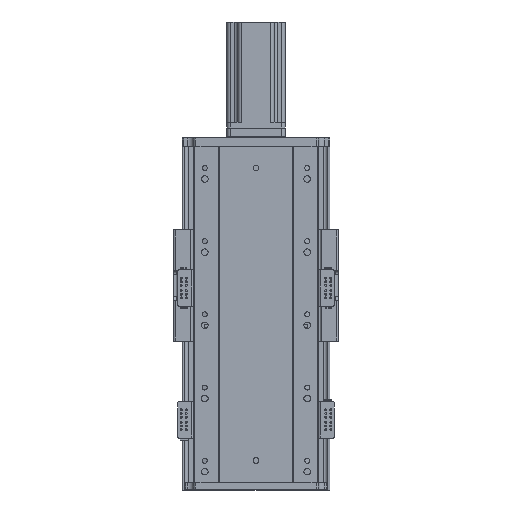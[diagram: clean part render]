
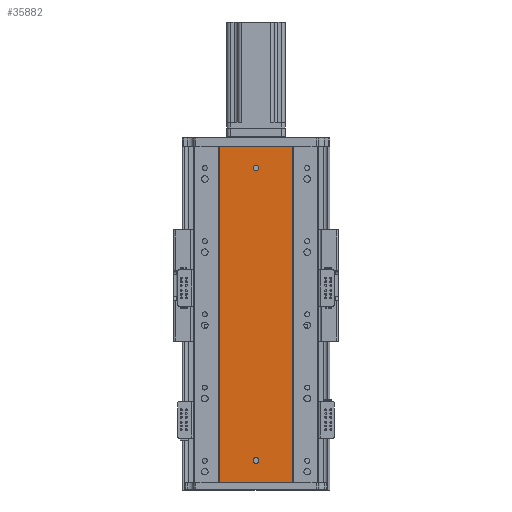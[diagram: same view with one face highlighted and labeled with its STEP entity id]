
A CAD part, front view. The second image highlights one B-rep face of the part: STEP entity #35882.
In plain terms, the highlighted planar face has unit normal (0, -1, 0).
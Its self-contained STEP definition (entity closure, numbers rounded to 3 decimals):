
#3149 = AXIS2_PLACEMENT_3D ( 'NONE', #26617, #26619, #26595 ) ;
#3155 = AXIS2_PLACEMENT_3D ( 'NONE', #9275, #9280, #9288 ) ;
#3373 = B_SPLINE_CURVE_WITH_KNOTS ( 'NONE', 3,
 ( #5493, #5479, #5494, #5488 ),
 .UNSPECIFIED., .F., .F.,
 ( 4, 4 ),
 ( 0., 1. ),
 .UNSPECIFIED. ) ;
#3380 = B_SPLINE_CURVE_WITH_KNOTS ( 'NONE', 3,
 ( #5648, #5653, #5668, #5664 ),
 .UNSPECIFIED., .F., .F.,
 ( 4, 4 ),
 ( 0., 1. ),
 .UNSPECIFIED. ) ;
#5479 = CARTESIAN_POINT ( 'NONE',  ( 185.97, 79.476, 306.667 ) ) ;
#5488 = CARTESIAN_POINT ( 'NONE',  ( 185.97, 79.476, 0. ) ) ;
#5493 = CARTESIAN_POINT ( 'NONE',  ( 185.97, 79.476, 460. ) ) ;
#5494 = CARTESIAN_POINT ( 'NONE',  ( 185.97, 79.476, 153.333 ) ) ;
#5539 = CARTESIAN_POINT ( 'NONE',  ( 0., 79.476, 460. ) ) ;
#5547 = DIRECTION ( 'NONE',  ( 1., 0., 0. ) ) ;
#5563 = DIRECTION ( 'NONE',  ( 0., 0., -1. ) ) ;
#5580 = CARTESIAN_POINT ( 'NONE',  ( 136.47, 79.476, 430. ) ) ;
#5581 = DIRECTION ( 'NONE',  ( 0., -1., 0. ) ) ;
#5605 = CARTESIAN_POINT ( 'NONE',  ( 136.47, 79.476, 30. ) ) ;
#5608 = DIRECTION ( 'NONE',  ( 0., -1., 0. ) ) ;
#5610 = DIRECTION ( 'NONE',  ( 0., 0., -1. ) ) ;
#5648 = CARTESIAN_POINT ( 'NONE',  ( 86.97, 79.476, 460. ) ) ;
#5653 = CARTESIAN_POINT ( 'NONE',  ( 86.97, 79.476, 306.667 ) ) ;
#5664 = CARTESIAN_POINT ( 'NONE',  ( 86.97, 79.476, 0. ) ) ;
#5668 = CARTESIAN_POINT ( 'NONE',  ( 86.97, 79.476, 153.333 ) ) ;
#5693 = DIRECTION ( 'NONE',  ( 1., 0., 0. ) ) ;
#5723 = CARTESIAN_POINT ( 'NONE',  ( 0., 79.476, 0. ) ) ;
#8144 = CARTESIAN_POINT ( 'NONE',  ( 86.97, 79.476, 460. ) ) ;
#8204 = CARTESIAN_POINT ( 'NONE',  ( 185.97, 79.476, 0. ) ) ;
#8216 = CARTESIAN_POINT ( 'NONE',  ( 86.97, 79.476, 0. ) ) ;
#8237 = CARTESIAN_POINT ( 'NONE',  ( 185.97, 79.476, 460. ) ) ;
#8539 = CARTESIAN_POINT ( 'NONE',  ( 136.47, 79.476, 34. ) ) ;
#8577 = CARTESIAN_POINT ( 'NONE',  ( 136.47, 79.476, 426. ) ) ;
#8595 = CARTESIAN_POINT ( 'NONE',  ( 136.47, 79.476, 434. ) ) ;
#8626 = CARTESIAN_POINT ( 'NONE',  ( 136.47, 79.476, 26. ) ) ;
#9275 = CARTESIAN_POINT ( 'NONE',  ( 136.47, 79.476, 430. ) ) ;
#9280 = DIRECTION ( 'NONE',  ( 0., -1., 0. ) ) ;
#9288 = DIRECTION ( 'NONE',  ( 0., 0., -1. ) ) ;
#9687 = VERTEX_POINT ( 'NONE', #8144 ) ;
#9778 = VERTEX_POINT ( 'NONE', #8204 ) ;
#9781 = VERTEX_POINT ( 'NONE', #8216 ) ;
#9793 = VERTEX_POINT ( 'NONE', #8237 ) ;
#10226 = VERTEX_POINT ( 'NONE', #8539 ) ;
#10244 = VERTEX_POINT ( 'NONE', #8595 ) ;
#10289 = VERTEX_POINT ( 'NONE', #8577 ) ;
#10292 = VERTEX_POINT ( 'NONE', #8626 ) ;
#11175 = DIRECTION ( 'NONE',  ( 0., 1., 0. ) ) ;
#11200 = CARTESIAN_POINT ( 'NONE',  ( 0., 79.476, 460. ) ) ;
#11209 = DIRECTION ( 'NONE',  ( 0., 0., 1. ) ) ;
#11222 = PLANE ( 'NONE',  #33517 ) ;
#17085 = EDGE_LOOP ( 'NONE', ( #20745, #20733 ) ) ;
#17119 = EDGE_LOOP ( 'NONE', ( #20748, #20725 ) ) ;
#17129 = EDGE_LOOP ( 'NONE', ( #20700, #20728, #20696, #20835 ) ) ;
#20696 = ORIENTED_EDGE ( 'NONE', *, *, #26080, .F. ) ;
#20700 = ORIENTED_EDGE ( 'NONE', *, *, #26198, .T. ) ;
#20725 = ORIENTED_EDGE ( 'NONE', *, *, #24863, .F. ) ;
#20728 = ORIENTED_EDGE ( 'NONE', *, *, #26070, .F. ) ;
#20733 = ORIENTED_EDGE ( 'NONE', *, *, #24771, .F. ) ;
#20745 = ORIENTED_EDGE ( 'NONE', *, *, #26134, .F. ) ;
#20748 = ORIENTED_EDGE ( 'NONE', *, *, #26151, .F. ) ;
#20835 = ORIENTED_EDGE ( 'NONE', *, *, #26186, .T. ) ;
#24771 = EDGE_CURVE ( 'NONE', #10244, #10289, #30408, .T. ) ;
#24863 = EDGE_CURVE ( 'NONE', #10226, #10292, #30556, .T. ) ;
#26070 = EDGE_CURVE ( 'NONE', #9793, #9778, #3373, .T. ) ;
#26080 = EDGE_CURVE ( 'NONE', #9687, #9793, #31371, .T. ) ;
#26134 = EDGE_CURVE ( 'NONE', #10289, #10244, #31468, .T. ) ;
#26151 = EDGE_CURVE ( 'NONE', #10292, #10226, #30333, .T. ) ;
#26186 = EDGE_CURVE ( 'NONE', #9687, #9781, #3380, .T. ) ;
#26198 = EDGE_CURVE ( 'NONE', #9781, #9778, #30930, .T. ) ;
#26595 = DIRECTION ( 'NONE',  ( 0., 0., -1. ) ) ;
#26617 = CARTESIAN_POINT ( 'NONE',  ( 136.47, 79.476, 30. ) ) ;
#26619 = DIRECTION ( 'NONE',  ( 0., -1., 0. ) ) ;
#30214 = FACE_OUTER_BOUND ( 'NONE', #17129, .T. ) ;
#30231 = FACE_BOUND ( 'NONE', #17119, .T. ) ;
#30259 = FACE_BOUND ( 'NONE', #17085, .T. ) ;
#30333 = CIRCLE ( 'NONE', #33267, 4. ) ;
#30408 = CIRCLE ( 'NONE', #3155, 4. ) ;
#30556 = CIRCLE ( 'NONE', #3149, 4. ) ;
#30877 = VECTOR ( 'NONE', #5693, 1000. ) ;
#30930 = LINE ( 'NONE', #5723, #30877 ) ;
#31371 = LINE ( 'NONE', #5539, #31414 ) ;
#31414 = VECTOR ( 'NONE', #5547, 1000. ) ;
#31468 = CIRCLE ( 'NONE', #33240, 4. ) ;
#33240 = AXIS2_PLACEMENT_3D ( 'NONE', #5580, #5581, #5563 ) ;
#33267 = AXIS2_PLACEMENT_3D ( 'NONE', #5605, #5608, #5610 ) ;
#33517 = AXIS2_PLACEMENT_3D ( 'NONE', #11200, #11175, #11209 ) ;
#35882 = ADVANCED_FACE ( 'NONE', ( #30259, #30231, #30214 ), #11222, .F. ) ;
